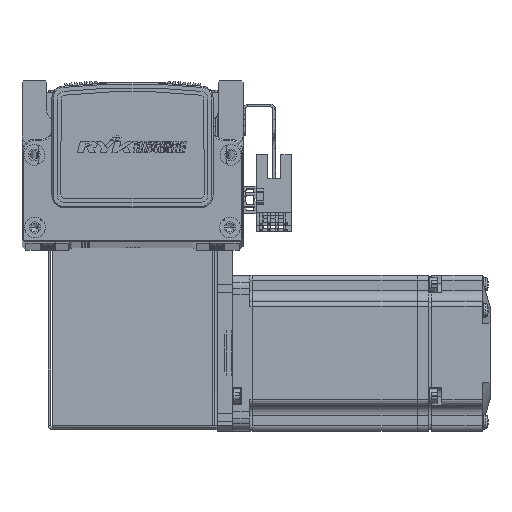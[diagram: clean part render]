
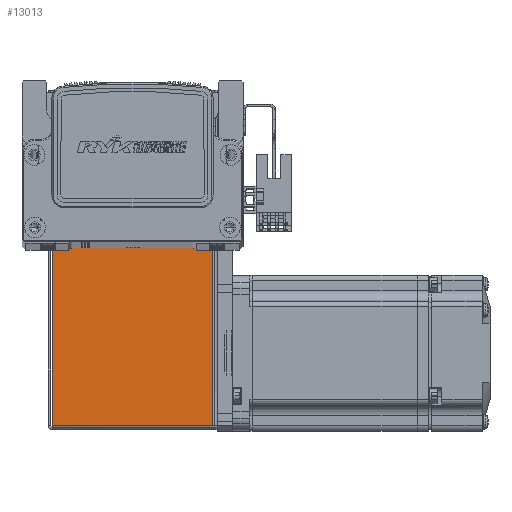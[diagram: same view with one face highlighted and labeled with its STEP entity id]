
A CAD part, top view. The second image highlights one B-rep face of the part: STEP entity #13013.
In plain terms, the highlighted planar face has unit normal (0, 0, 1).
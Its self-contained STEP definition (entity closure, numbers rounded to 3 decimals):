
#6291 = EDGE_CURVE ( 'NONE', #24468, #24603, #34382, .T. ) ;
#6320 = EDGE_CURVE ( 'NONE', #24474, #24468, #34543, .T. ) ;
#6321 = EDGE_CURVE ( 'NONE', #24474, #24541, #34572, .T. ) ;
#6322 = EDGE_CURVE ( 'NONE', #24541, #24603, #34520, .T. ) ;
#13013 = ADVANCED_FACE ( 'NONE', ( #61479 ), #52269, .F. ) ;
#18268 = ORIENTED_EDGE ( 'NONE', *, *, #6320, .T. ) ;
#18323 = ORIENTED_EDGE ( 'NONE', *, *, #6322, .F. ) ;
#18387 = ORIENTED_EDGE ( 'NONE', *, *, #6291, .T. ) ;
#18394 = ORIENTED_EDGE ( 'NONE', *, *, #6321, .F. ) ;
#24468 = VERTEX_POINT ( 'NONE', #40635 ) ;
#24474 = VERTEX_POINT ( 'NONE', #40633 ) ;
#24541 = VERTEX_POINT ( 'NONE', #40671 ) ;
#24603 = VERTEX_POINT ( 'NONE', #40723 ) ;
#30489 = CARTESIAN_POINT ( 'NONE',  ( 0., 72.5, 35. ) ) ;
#30525 = DIRECTION ( 'NONE',  ( -1., 0., 0. ) ) ;
#30542 = CARTESIAN_POINT ( 'NONE',  ( -32.5, 0.737, 35. ) ) ;
#30546 = DIRECTION ( 'NONE',  ( 0., 1., 0. ) ) ;
#30557 = CARTESIAN_POINT ( 'NONE',  ( 30.763, 0.737, 35. ) ) ;
#30569 = CARTESIAN_POINT ( 'NONE',  ( -30.793, 0., 35. ) ) ;
#30574 = DIRECTION ( 'NONE',  ( -1., 0., 0. ) ) ;
#30576 = DIRECTION ( 'NONE',  ( 0., 1., 0. ) ) ;
#34382 = LINE ( 'NONE', #30489, #34387 ) ;
#34387 = VECTOR ( 'NONE', #30525, 1000. ) ;
#34520 = LINE ( 'NONE', #30569, #34561 ) ;
#34543 = LINE ( 'NONE', #30557, #34544 ) ;
#34544 = VECTOR ( 'NONE', #30546, 1000. ) ;
#34561 = VECTOR ( 'NONE', #30576, 1000. ) ;
#34572 = LINE ( 'NONE', #30542, #34614 ) ;
#34614 = VECTOR ( 'NONE', #30574, 1000. ) ;
#40633 = CARTESIAN_POINT ( 'NONE',  ( 30.763, 0.737, 35. ) ) ;
#40635 = CARTESIAN_POINT ( 'NONE',  ( 30.763, 72.5, 35. ) ) ;
#40671 = CARTESIAN_POINT ( 'NONE',  ( -30.793, 0.737, 35. ) ) ;
#40723 = CARTESIAN_POINT ( 'NONE',  ( -30.793, 72.5, 35. ) ) ;
#52269 = PLANE ( 'NONE',  #56970 ) ;
#52272 = DIRECTION ( 'NONE',  ( -1., 0., 0. ) ) ;
#52286 = DIRECTION ( 'NONE',  ( 0., 0., -1. ) ) ;
#52303 = CARTESIAN_POINT ( 'NONE',  ( 0., 0., 35. ) ) ;
#56970 = AXIS2_PLACEMENT_3D ( 'NONE', #52303, #52286, #52272 ) ;
#61479 = FACE_OUTER_BOUND ( 'NONE', #76031, .T. ) ;
#76031 = EDGE_LOOP ( 'NONE', ( #18268, #18387, #18323, #18394 ) ) ;
